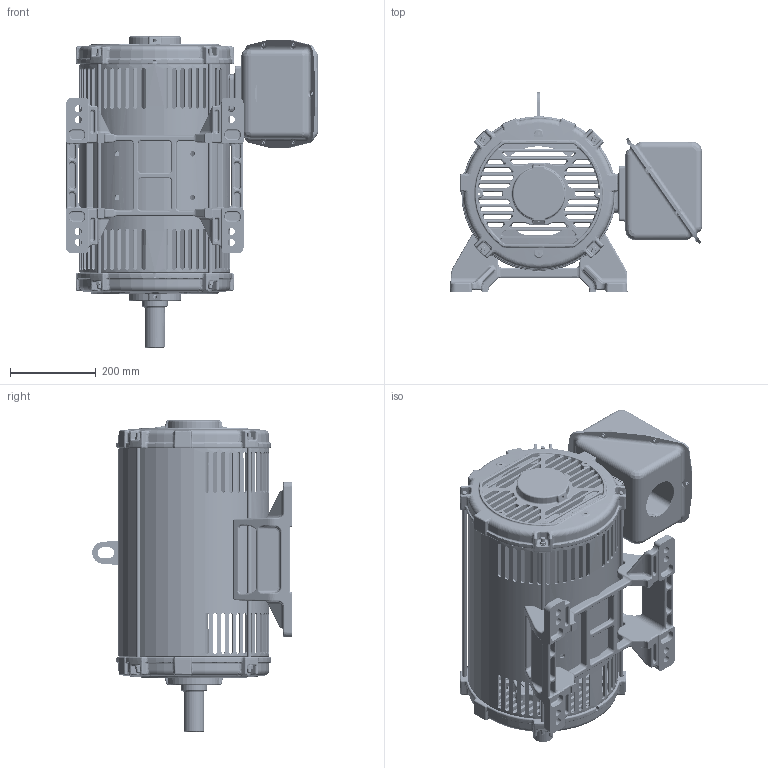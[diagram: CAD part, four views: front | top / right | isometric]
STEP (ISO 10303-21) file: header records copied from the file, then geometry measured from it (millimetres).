
FILE_DESCRIPTION((''),'2;1');
FILE_NAME('LATEST_2POLE_ASSY_ASM','2020-09-14T08:17:52',('EMD2341'),('Nidec Motor Corporation'),'CREO PARAMETRIC BY PTC INC, 2019080','CREO PARAMETRIC BY PTC INC, 2019080','');
FILE_SCHEMA(('CONFIG_CONTROL_DESIGN'));
Length unit declared in the file: inch
Products named in the file (17): 2075956_AF0; 2077546; 0393774-003; 0028711; 2POLE; 0391696; STUD; 0003152; HJN012; 0991438-GSK; 2086395; 2048988-OBB; 2048939; 2048988-OBC; 2048940; 2086936-BSE; LATEST_2POLE_ASSY_ASM
Assembly tree (33 placements, depth 2):
  LATEST_2POLE_ASSY_ASM
    2075956_AF0
    2077546
    0393774-003
    0028711
    2POLE
    0391696
    STUD  x4
    0003152  x8
    HJN012  x8
    0991438-GSK
    2086395
    2048988-OBB
    2048939
    2048988-OBC
    2048940
    2086936-BSE
Bounding box: 585.46 x 464.27 x 724 mm (x, y, z)
Volume: 10433979.2 mm3; surface area: 3074573.9 mm2
Topology: 35 solids, 43 shells, 6732 faces, 15669 edges, 8972 vertices
Faces by surface type: bspline 2786, cylinder 1639, plane 1046, torus 638, cone 363, sphere 260
Entity records: 312675 total; most frequent: CARTESIAN_POINT 182713, ORIENTED_EDGE 30438, DIRECTION 22627, EDGE_CURVE 15235, AXIS2_PLACEMENT_3D 9459, VERTEX_POINT 8696, EDGE_LOOP 6877, FACE_OUTER_BOUND 6540
